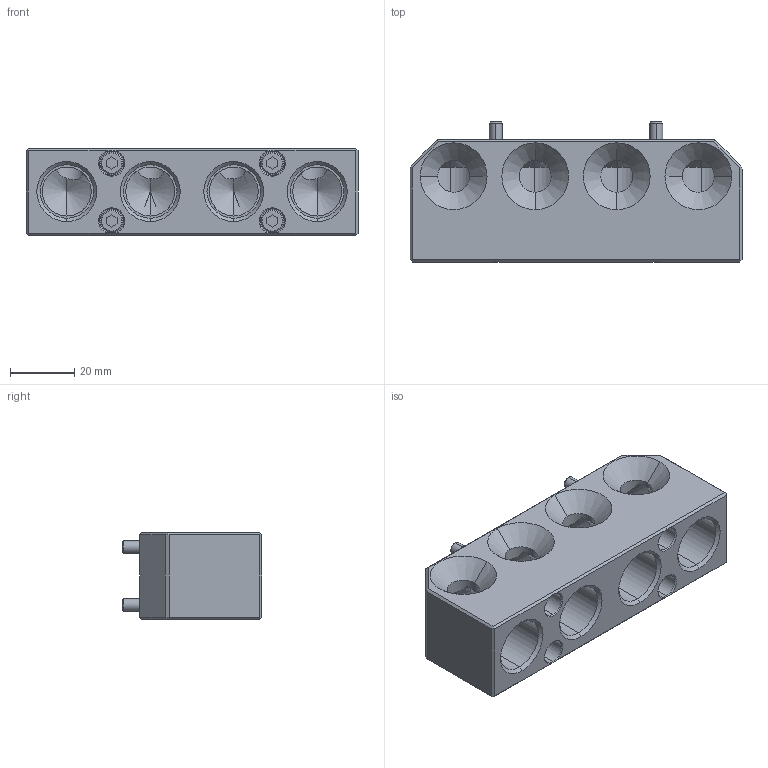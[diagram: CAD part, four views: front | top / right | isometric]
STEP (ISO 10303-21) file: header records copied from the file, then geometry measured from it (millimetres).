
FILE_DESCRIPTION (( 'STEP AP203' ), '1' );
FILE_NAME ('1QCAM-04G38G.STEP', '2024-03-14T08:44:25', ( '微软用户' ), ( '微软中国' ), 'SwSTEP 2.0', 'SolidWorks 2018', '' );
FILE_SCHEMA (( 'CONFIG_CONTROL_DESIGN' ));
Length unit declared in the file: millimetre
Products named in the file (1): 1QCAM-04G38G
Bounding box: 103.4 x 43.6 x 27 mm (x, y, z)
Volume: 72093.9 mm3; surface area: 25760.4 mm2
Topology: 1 solids, 3 shells, 303 faces, 746 edges, 472 vertices
Faces by surface type: plane 148, cone 70, cylinder 61, bspline 24
Entity records: 11357 total; most frequent: CARTESIAN_POINT 4234, ORIENTED_EDGE 1468, DIRECTION 1398, EDGE_CURVE 734, VERTEX_POINT 472, LINE 470, VECTOR 470, AXIS2_PLACEMENT_3D 464
